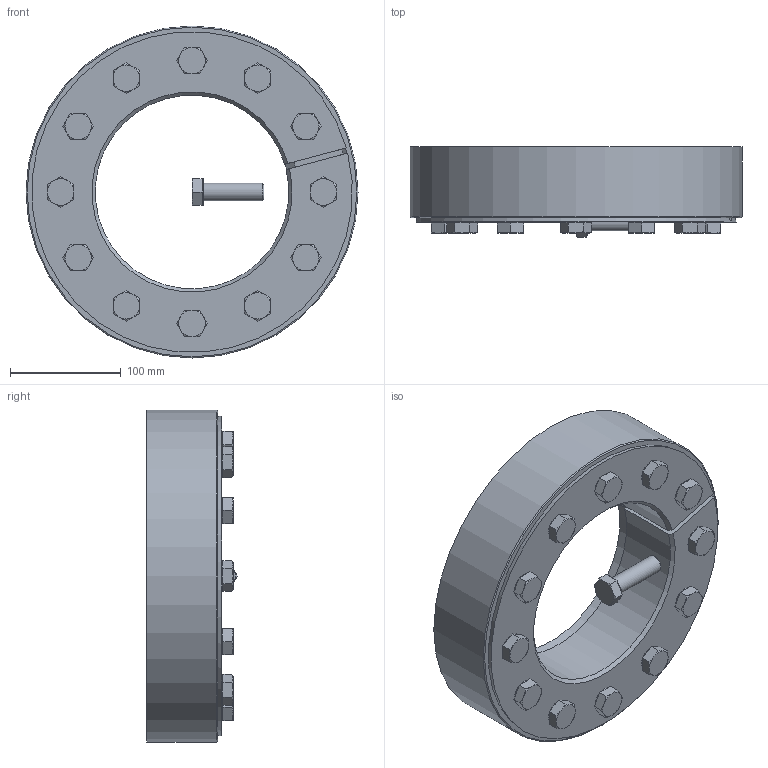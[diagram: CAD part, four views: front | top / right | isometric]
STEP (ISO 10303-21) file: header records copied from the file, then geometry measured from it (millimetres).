
FILE_DESCRIPTION( ( 'Unknown' ), '1' );
FILE_NAME( 'C:/Dokumente und Einstellungen/Sven/Desktop/homepage/cad - homepage/KBS19-1/KBS 19_1 - 175 x 300.stp', 'Unknown', ( 'Unknown' ), ( 'Unknown' ), 'XStep 1.0', 'Unknown', ' ' );
FILE_SCHEMA( ( 'automotive_design' ) );
Length unit declared in the file: millimetre
Products named in the file (3): Assem1; KBS 19_1 - 175 x 300; ISO 4017 - M16 x 55-N
Bounding box: 300 x 81.86 x 300 mm (x, y, z)
Volume: 6149142 mm3; surface area: 526655.8 mm2
Topology: 15 solids, 15 shells, 379 faces, 846 edges, 510 vertices
Faces by surface type: plane 213, cone 97, cylinder 54, torus 15
Full cylindrical faces by diameter (mm): 16 x37, 24 x13, 300 x2
Entity records: 1834 total; most frequent: CARTESIAN_POINT 329, DIRECTION 272, ORIENTED_EDGE 214, AXIS2_PLACEMENT_3D 117, EDGE_CURVE 107, EDGE_LOOP 97, VERTEX_POINT 78, FACE_OUTER_BOUND 69
